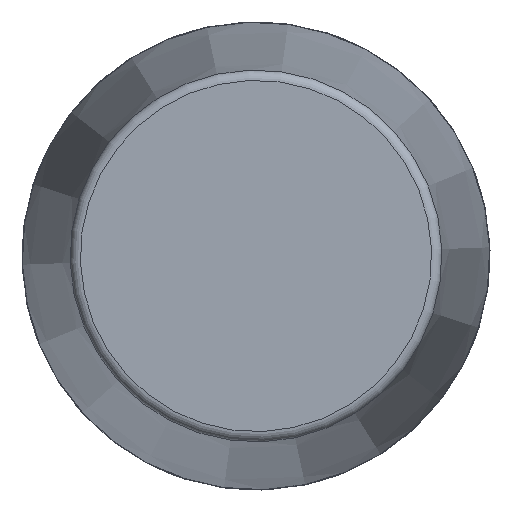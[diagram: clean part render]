
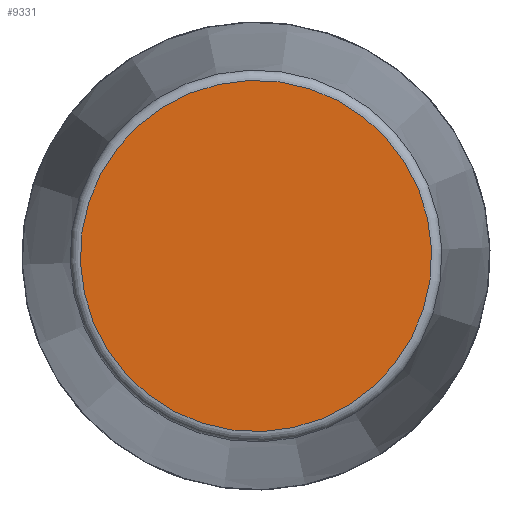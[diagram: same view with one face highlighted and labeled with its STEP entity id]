
A CAD part, front view. The second image highlights one B-rep face of the part: STEP entity #9331.
In plain terms, the highlighted planar face has unit normal (0, -1, 0) as drawn and (1, 0, 0) by its records, which use the part's own axes.
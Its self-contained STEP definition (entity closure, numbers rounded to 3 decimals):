
#260=PLANE('',#9703);
#3218=FACE_OUTER_BOUND('',#3807,.T.);
#3807=EDGE_LOOP('',(#8787));
#3848=CIRCLE('',#9699,170.654);
#4758=VERTEX_POINT('',#17644);
#6104=EDGE_CURVE('',#4758,#4758,#3848,.T.);
#8787=ORIENTED_EDGE('',*,*,#6104,.F.);
#9331=ADVANCED_FACE('',(#3218),#260,.T.);
#9699=AXIS2_PLACEMENT_3D('',#17645,#11090,#11091);
#9703=AXIS2_PLACEMENT_3D('',#17651,#11098,#11099);
#11090=DIRECTION('center_axis',(-1.,0.,0.));
#11091=DIRECTION('ref_axis',(0.,0.,
1.));
#11098=DIRECTION('center_axis',(1.,0.,0.));
#11099=DIRECTION('ref_axis',(0.,0.,-1.));
#17644=CARTESIAN_POINT('',(751.5,0.,-170.654));
#17645=CARTESIAN_POINT('Origin',(751.5,0.,0.));
#17651=CARTESIAN_POINT('Origin',(751.5,0.,0.));
